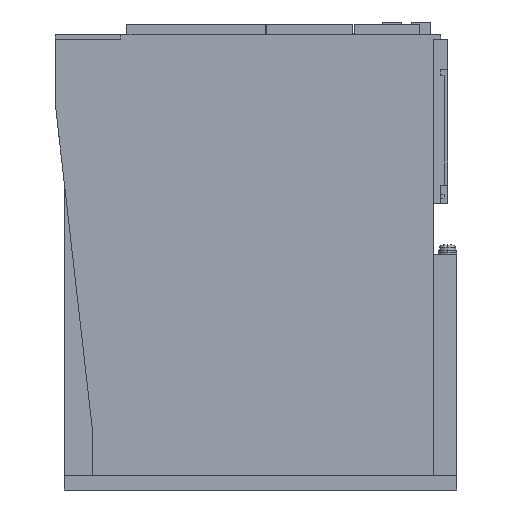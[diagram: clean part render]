
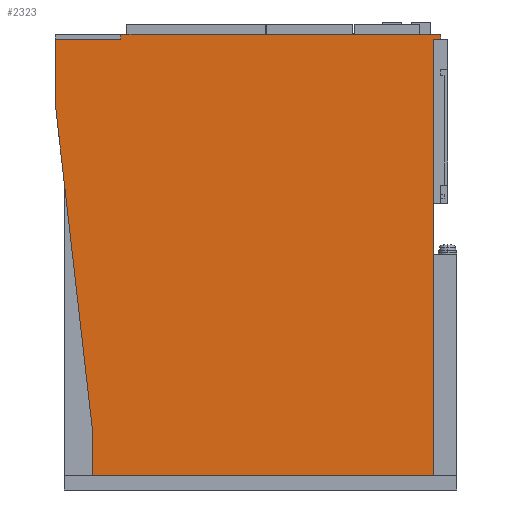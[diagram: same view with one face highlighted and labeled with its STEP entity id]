
A CAD part, left-side view. The second image highlights one B-rep face of the part: STEP entity #2323.
In plain terms, the highlighted planar face has unit normal (-1, 0, 0).
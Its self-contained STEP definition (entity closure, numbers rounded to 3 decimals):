
#828=DIRECTION('',(0.,-1.,0.));
#829=VECTOR('',#828,146.);
#830=CARTESIAN_POINT('',(-30.,67.,0.));
#831=LINE('',#830,#829);
#1016=DIRECTION('',(0.,0.,-1.));
#1017=VECTOR('',#1016,2.);
#1018=CARTESIAN_POINT('',(-30.,-82.,189.));
#1019=LINE('',#1018,#1017);
#1168=DIRECTION('',(0.,0.,1.));
#1169=VECTOR('',#1168,187.);
#1170=CARTESIAN_POINT('',(-30.,-79.,0.));
#1171=LINE('',#1170,#1169);
#1172=DIRECTION('',(0.,-1.,0.));
#1173=VECTOR('',#1172,3.);
#1174=CARTESIAN_POINT('',(-30.,-79.,187.));
#1175=LINE('',#1174,#1173);
#1180=DIRECTION('',(0.,-1.,0.));
#1181=VECTOR('',#1180,28.2);
#1182=CARTESIAN_POINT('',(-30.,83.,186.9));
#1183=LINE('',#1182,#1181);
#1184=DIRECTION('',(0.,0.,-1.));
#1185=VECTOR('',#1184,2.1);
#1186=CARTESIAN_POINT('',(-30.,54.8,189.));
#1187=LINE('',#1186,#1185);
#1188=DIRECTION('',(0.,-1.,0.));
#1189=VECTOR('',#1188,136.8);
#1190=CARTESIAN_POINT('',(-30.,54.8,189.));
#1191=LINE('',#1190,#1189);
#1192=DIRECTION('',(0.,0.,1.));
#1193=VECTOR('',#1192,19.5);
#1194=CARTESIAN_POINT('',(-30.,67.,0.));
#1195=LINE('',#1194,#1193);
#1196=DIRECTION('',(0.,0.113,0.994));
#1197=VECTOR('',#1196,106.004);
#1198=CARTESIAN_POINT('',(-30.,67.,19.5));
#1199=LINE('',#1198,#1197);
#1200=DIRECTION('',(0.,-0.113,-0.994));
#1201=VECTOR('',#1200,35.305);
#1202=CARTESIAN_POINT('',(-30.,83.,159.9));
#1203=LINE('',#1202,#1201);
#1204=DIRECTION('',(0.,0.,-1.));
#1205=VECTOR('',#1204,27.);
#1206=CARTESIAN_POINT('',(-30.,83.,186.9));
#1207=LINE('',#1206,#1205);
#1600=CARTESIAN_POINT('',(-30.,-79.,0.));
#1602=VERTEX_POINT('',#1600);
#1610=CARTESIAN_POINT('',(-30.,67.,0.));
#1611=VERTEX_POINT('',#1610);
#1612=CARTESIAN_POINT('',(-30.,67.,19.5));
#1613=VERTEX_POINT('',#1612);
#1616=CARTESIAN_POINT('',(-30.,79.,124.823));
#1617=VERTEX_POINT('',#1616);
#1640=CARTESIAN_POINT('',(-30.,54.8,189.));
#1642=VERTEX_POINT('',#1640);
#1644=CARTESIAN_POINT('',(-30.,83.,186.9));
#1645=CARTESIAN_POINT('',(-30.,54.8,186.9));
#1646=VERTEX_POINT('',#1644);
#1647=VERTEX_POINT('',#1645);
#1664=CARTESIAN_POINT('',(-30.,83.,159.9));
#1665=VERTEX_POINT('',#1664);
#1762=CARTESIAN_POINT('',(-30.,-82.,189.));
#1763=CARTESIAN_POINT('',(-30.,-82.,187.));
#1764=VERTEX_POINT('',#1762);
#1765=VERTEX_POINT('',#1763);
#1766=CARTESIAN_POINT('',(-30.,-79.,187.));
#1768=VERTEX_POINT('',#1766);
#2298=CARTESIAN_POINT('',(-30.,79.,0.));
#2299=DIRECTION('',(-1.,0.,0.));
#2300=DIRECTION('',(0.,-1.,0.));
#2301=AXIS2_PLACEMENT_3D('',#2298,#2299,#2300);
#2302=PLANE('',#2301);
#2304=ORIENTED_EDGE('',*,*,#2303,.T.);
#2306=ORIENTED_EDGE('',*,*,#2305,.F.);
#2308=ORIENTED_EDGE('',*,*,#2307,.T.);
#2309=ORIENTED_EDGE('',*,*,#2030,.T.);
#2310=ORIENTED_EDGE('',*,*,#2292,.F.);
#2311=ORIENTED_EDGE('',*,*,#2280,.F.);
#2312=ORIENTED_EDGE('',*,*,#1867,.F.);
#2314=ORIENTED_EDGE('',*,*,#2313,.T.);
#2316=ORIENTED_EDGE('',*,*,#2315,.T.);
#2318=ORIENTED_EDGE('',*,*,#2317,.F.);
#2320=ORIENTED_EDGE('',*,*,#2319,.F.);
#2321=EDGE_LOOP('',(#2304,#2306,#2308,#2309,#2310,#2311,#2312,#2314,#2316,#2318,
#2320));
#2322=FACE_OUTER_BOUND('',#2321,.F.);
#2323=ADVANCED_FACE('',(#2322),#2302,.T.);
#1867=EDGE_CURVE('',#1611,#1602,#831,.T.);
#2030=EDGE_CURVE('',#1764,#1765,#1019,.T.);
#2280=EDGE_CURVE('',#1602,#1768,#1171,.T.);
#2292=EDGE_CURVE('',#1768,#1765,#1175,.T.);
#2303=EDGE_CURVE('',#1646,#1647,#1183,.T.);
#2305=EDGE_CURVE('',#1642,#1647,#1187,.T.);
#2307=EDGE_CURVE('',#1642,#1764,#1191,.T.);
#2313=EDGE_CURVE('',#1611,#1613,#1195,.T.);
#2315=EDGE_CURVE('',#1613,#1617,#1199,.T.);
#2317=EDGE_CURVE('',#1665,#1617,#1203,.T.);
#2319=EDGE_CURVE('',#1646,#1665,#1207,.T.);
